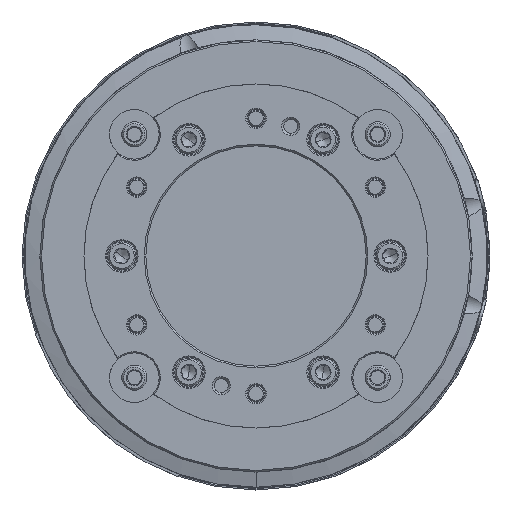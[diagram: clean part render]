
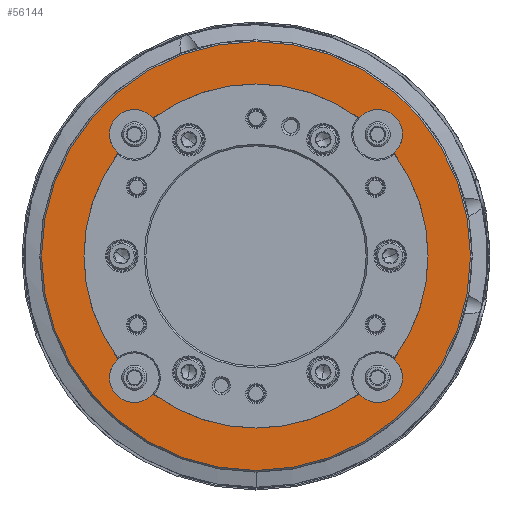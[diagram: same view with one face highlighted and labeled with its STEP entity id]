
A CAD part, left-side view. The second image highlights one B-rep face of the part: STEP entity #56144.
In plain terms, the highlighted planar face has unit normal (-1, 0, 0).
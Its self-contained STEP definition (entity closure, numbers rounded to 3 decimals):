
#466 = ORIENTED_EDGE ( 'NONE', *, *, #25274, .T. ) ;
#1357 = EDGE_CURVE ( 'NONE', #11084, #21792, #25527, .T. ) ;
#1415 = DIRECTION ( 'NONE',  ( 0., 0., -1. ) ) ;
#1980 = AXIS2_PLACEMENT_3D ( 'NONE', #95531, #36201, #27362 ) ;
#2024 = EDGE_LOOP ( 'NONE', ( #2470, #5076 ) ) ;
#2470 = ORIENTED_EDGE ( 'NONE', *, *, #25577, .F. ) ;
#3013 = VERTEX_POINT ( 'NONE', #93232 ) ;
#3164 = ORIENTED_EDGE ( 'NONE', *, *, #95882, .F. ) ;
#3174 = CARTESIAN_POINT ( 'NONE',  ( -92.5, -44.194, 44.194 ) ) ;
#3239 = PLANE ( 'NONE',  #6719 ) ;
#3517 = ORIENTED_EDGE ( 'NONE', *, *, #55312, .F. ) ;
#3986 = VERTEX_POINT ( 'NONE', #22561 ) ;
#4195 = DIRECTION ( 'NONE',  ( -1., 0., 0. ) ) ;
#4393 = AXIS2_PLACEMENT_3D ( 'NONE', #99821, #61828, #101344 ) ;
#4941 = CIRCLE ( 'NONE', #63063, 62.5 ) ;
#5076 = ORIENTED_EDGE ( 'NONE', *, *, #43070, .F. ) ;
#5139 = DIRECTION ( 'NONE',  ( 0., 0., 1. ) ) ;
#5934 = DIRECTION ( 'NONE',  ( -1., 0., 0. ) ) ;
#6719 = AXIS2_PLACEMENT_3D ( 'NONE', #67181, #98403, #74961 ) ;
#6884 = CIRCLE ( 'NONE', #1980, 9. ) ;
#10364 = CARTESIAN_POINT ( 'NONE',  ( -92.5, 0., 77.9 ) ) ;
#11084 = VERTEX_POINT ( 'NONE', #102155 ) ;
#11425 = CARTESIAN_POINT ( 'NONE',  ( -92.5, 44.194, -44.194 ) ) ;
#11560 = FACE_OUTER_BOUND ( 'NONE', #2024, .T. ) ;
#15358 = EDGE_CURVE ( 'NONE', #3013, #76383, #89498, .T. ) ;
#16207 = CIRCLE ( 'NONE', #41116, 9. ) ;
#16535 = CARTESIAN_POINT ( 'NONE',  ( -92.5, 37.389, 50.083 ) ) ;
#16808 = CARTESIAN_POINT ( 'NONE',  ( -92.5, -44.194, -53.194 ) ) ;
#17260 = DIRECTION ( 'NONE',  ( -1., 0., 0. ) ) ;
#18598 = ORIENTED_EDGE ( 'NONE', *, *, #18790, .F. ) ;
#18790 = EDGE_CURVE ( 'NONE', #90875, #35924, #58957, .T. ) ;
#19746 = VERTEX_POINT ( 'NONE', #90477 ) ;
#21792 = VERTEX_POINT ( 'NONE', #16808 ) ;
#22044 = DIRECTION ( 'NONE',  ( 0., 0., 1. ) ) ;
#22228 = CIRCLE ( 'NONE', #101941, 9. ) ;
#22561 = CARTESIAN_POINT ( 'NONE',  ( -92.5, -37.389, 50.083 ) ) ;
#23031 = ORIENTED_EDGE ( 'NONE', *, *, #78308, .T. ) ;
#24059 = EDGE_CURVE ( 'NONE', #19746, #70851, #68141, .T. ) ;
#25032 = AXIS2_PLACEMENT_3D ( 'NONE', #3174, #4195, #99876 ) ;
#25274 = EDGE_CURVE ( 'NONE', #101968, #36266, #33564, .T. ) ;
#25481 = CARTESIAN_POINT ( 'NONE',  ( -92.5, -44.194, -44.194 ) ) ;
#25527 = CIRCLE ( 'NONE', #45418, 9. ) ;
#25577 = EDGE_CURVE ( 'NONE', #51298, #49130, #60153, .T. ) ;
#26011 = DIRECTION ( 'NONE',  ( -1., 0., 0. ) ) ;
#26181 = EDGE_LOOP ( 'NONE', ( #3517, #466, #3164, #18598, #44381, #40511, #100634, #64081, #33853, #98374, #69593, #23031, #43493 ) ) ;
#27362 = DIRECTION ( 'NONE',  ( 0., 0., 1. ) ) ;
#28199 = CARTESIAN_POINT ( 'NONE',  ( -92.5, 0., -77.9 ) ) ;
#30988 = CIRCLE ( 'NONE', #4393, 62.5 ) ;
#31215 = CARTESIAN_POINT ( 'NONE',  ( -92.5, 0., -62.5 ) ) ;
#32226 = DIRECTION ( 'NONE',  ( 0., 0., -1. ) ) ;
#32900 = CARTESIAN_POINT ( 'NONE',  ( -92.5, 44.194, -44.194 ) ) ;
#33564 = CIRCLE ( 'NONE', #89980, 62.5 ) ;
#33853 = ORIENTED_EDGE ( 'NONE', *, *, #80115, .F. ) ;
#34171 = CARTESIAN_POINT ( 'NONE',  ( -92.5, 0., 0. ) ) ;
#35172 = DIRECTION ( 'NONE',  ( 1., 0., 0. ) ) ;
#35924 = VERTEX_POINT ( 'NONE', #37049 ) ;
#36201 = DIRECTION ( 'NONE',  ( -1., 0., 0. ) ) ;
#36266 = VERTEX_POINT ( 'NONE', #90515 ) ;
#36340 = CARTESIAN_POINT ( 'NONE',  ( -92.5, 0., 0. ) ) ;
#37049 = CARTESIAN_POINT ( 'NONE',  ( -92.5, 44.194, 53.194 ) ) ;
#37659 = CARTESIAN_POINT ( 'NONE',  ( -92.5, 44.194, 44.194 ) ) ;
#38169 = VERTEX_POINT ( 'NONE', #76799 ) ;
#38487 = CARTESIAN_POINT ( 'NONE',  ( -92.5, 0., 0. ) ) ;
#40511 = ORIENTED_EDGE ( 'NONE', *, *, #49443, .F. ) ;
#40588 = DIRECTION ( 'NONE',  ( 0., 0., 1. ) ) ;
#41116 = AXIS2_PLACEMENT_3D ( 'NONE', #62970, #70748, #40588 ) ;
#41475 = AXIS2_PLACEMENT_3D ( 'NONE', #11425, #26011, #57745 ) ;
#42273 = FACE_BOUND ( 'NONE', #26181, .T. ) ;
#43070 = EDGE_CURVE ( 'NONE', #49130, #51298, #73752, .T. ) ;
#43493 = ORIENTED_EDGE ( 'NONE', *, *, #15358, .F. ) ;
#44381 = ORIENTED_EDGE ( 'NONE', *, *, #55386, .T. ) ;
#45418 = AXIS2_PLACEMENT_3D ( 'NONE', #25481, #49948, #57239 ) ;
#47101 = DIRECTION ( 'NONE',  ( 0., 0., -1. ) ) ;
#47948 = AXIS2_PLACEMENT_3D ( 'NONE', #32900, #17260, #50054 ) ;
#48579 = CIRCLE ( 'NONE', #100007, 62.5 ) ;
#49130 = VERTEX_POINT ( 'NONE', #10364 ) ;
#49443 = EDGE_CURVE ( 'NONE', #70851, #3986, #22228, .T. ) ;
#49901 = CARTESIAN_POINT ( 'NONE',  ( -92.5, 0., 0. ) ) ;
#49948 = DIRECTION ( 'NONE',  ( -1., 0., 0. ) ) ;
#50054 = DIRECTION ( 'NONE',  ( 0., 0., 1. ) ) ;
#51298 = VERTEX_POINT ( 'NONE', #28199 ) ;
#52191 = EDGE_CURVE ( 'NONE', #19746, #38169, #30988, .T. ) ;
#53543 = CARTESIAN_POINT ( 'NONE',  ( -92.5, -44.194, 44.194 ) ) ;
#55312 = EDGE_CURVE ( 'NONE', #101968, #3013, #76323, .T. ) ;
#55386 = EDGE_CURVE ( 'NONE', #90875, #3986, #4941, .T. ) ;
#55563 = AXIS2_PLACEMENT_3D ( 'NONE', #99709, #98695, #66445 ) ;
#56144 = ADVANCED_FACE ( 'NONE', ( #42273, #11560 ), #3239, .T. ) ;
#57239 = DIRECTION ( 'NONE',  ( 0., 0., 1. ) ) ;
#57745 = DIRECTION ( 'NONE',  ( 0., 0., 1. ) ) ;
#58957 = CIRCLE ( 'NONE', #95466, 9. ) ;
#59252 = DIRECTION ( 'NONE',  ( 1., 0., 0. ) ) ;
#60011 = CARTESIAN_POINT ( 'NONE',  ( -92.5, 37.389, -50.083 ) ) ;
#60153 = CIRCLE ( 'NONE', #81692, 77.9 ) ;
#61012 = CIRCLE ( 'NONE', #74257, 62.5 ) ;
#61828 = DIRECTION ( 'NONE',  ( 1., 0., 0. ) ) ;
#61908 = DIRECTION ( 'NONE',  ( 1., 0., 0. ) ) ;
#62970 = CARTESIAN_POINT ( 'NONE',  ( -92.5, -44.194, -44.194 ) ) ;
#63063 = AXIS2_PLACEMENT_3D ( 'NONE', #70477, #102226, #47101 ) ;
#64081 = ORIENTED_EDGE ( 'NONE', *, *, #52191, .T. ) ;
#66445 = DIRECTION ( 'NONE',  ( 0., 0., -1. ) ) ;
#67181 = CARTESIAN_POINT ( 'NONE',  ( -92.5, 62.5, 0. ) ) ;
#68141 = CIRCLE ( 'NONE', #25032, 9. ) ;
#69590 = DIRECTION ( 'NONE',  ( -1., 0., 0. ) ) ;
#69593 = ORIENTED_EDGE ( 'NONE', *, *, #83886, .T. ) ;
#70183 = DIRECTION ( 'NONE',  ( 0., 0., -1. ) ) ;
#70477 = CARTESIAN_POINT ( 'NONE',  ( -92.5, 0., 0. ) ) ;
#70651 = CARTESIAN_POINT ( 'NONE',  ( -92.5, 50.083, -37.389 ) ) ;
#70748 = DIRECTION ( 'NONE',  ( -1., 0., 0. ) ) ;
#70851 = VERTEX_POINT ( 'NONE', #100654 ) ;
#73752 = CIRCLE ( 'NONE', #55563, 77.9 ) ;
#74257 = AXIS2_PLACEMENT_3D ( 'NONE', #34171, #35172, #1415 ) ;
#74961 = DIRECTION ( 'NONE',  ( 0., 0., 1. ) ) ;
#76323 = CIRCLE ( 'NONE', #41475, 9. ) ;
#76383 = VERTEX_POINT ( 'NONE', #60011 ) ;
#76799 = CARTESIAN_POINT ( 'NONE',  ( -92.5, -50.083, -37.389 ) ) ;
#78308 = EDGE_CURVE ( 'NONE', #97926, #76383, #61012, .T. ) ;
#80115 = EDGE_CURVE ( 'NONE', #21792, #38169, #16207, .T. ) ;
#81692 = AXIS2_PLACEMENT_3D ( 'NONE', #36340, #59252, #98229 ) ;
#83886 = EDGE_CURVE ( 'NONE', #11084, #97926, #48579, .T. ) ;
#87866 = DIRECTION ( 'NONE',  ( 1., 0., 0. ) ) ;
#89498 = CIRCLE ( 'NONE', #47948, 9. ) ;
#89980 = AXIS2_PLACEMENT_3D ( 'NONE', #38487, #61908, #70183 ) ;
#90477 = CARTESIAN_POINT ( 'NONE',  ( -92.5, -50.083, 37.389 ) ) ;
#90515 = CARTESIAN_POINT ( 'NONE',  ( -92.5, 50.083, 37.389 ) ) ;
#90875 = VERTEX_POINT ( 'NONE', #16535 ) ;
#93232 = CARTESIAN_POINT ( 'NONE',  ( -92.5, 44.194, -53.194 ) ) ;
#95466 = AXIS2_PLACEMENT_3D ( 'NONE', #37659, #5934, #22044 ) ;
#95531 = CARTESIAN_POINT ( 'NONE',  ( -92.5, 44.194, 44.194 ) ) ;
#95882 = EDGE_CURVE ( 'NONE', #35924, #36266, #6884, .T. ) ;
#97926 = VERTEX_POINT ( 'NONE', #31215 ) ;
#98229 = DIRECTION ( 'NONE',  ( 0., 0., -1. ) ) ;
#98374 = ORIENTED_EDGE ( 'NONE', *, *, #1357, .F. ) ;
#98403 = DIRECTION ( 'NONE',  ( -1., 0., 0. ) ) ;
#98695 = DIRECTION ( 'NONE',  ( 1., 0., 0. ) ) ;
#99709 = CARTESIAN_POINT ( 'NONE',  ( -92.5, 0., 0. ) ) ;
#99821 = CARTESIAN_POINT ( 'NONE',  ( -92.5, 0., 0. ) ) ;
#99876 = DIRECTION ( 'NONE',  ( 0., 0., 1. ) ) ;
#100007 = AXIS2_PLACEMENT_3D ( 'NONE', #49901, #87866, #32226 ) ;
#100634 = ORIENTED_EDGE ( 'NONE', *, *, #24059, .F. ) ;
#100654 = CARTESIAN_POINT ( 'NONE',  ( -92.5, -44.194, 53.194 ) ) ;
#101344 = DIRECTION ( 'NONE',  ( 0., 0., -1. ) ) ;
#101941 = AXIS2_PLACEMENT_3D ( 'NONE', #53543, #69590, #5139 ) ;
#101968 = VERTEX_POINT ( 'NONE', #70651 ) ;
#102155 = CARTESIAN_POINT ( 'NONE',  ( -92.5, -37.389, -50.083 ) ) ;
#102226 = DIRECTION ( 'NONE',  ( 1., 0., 0. ) ) ;
